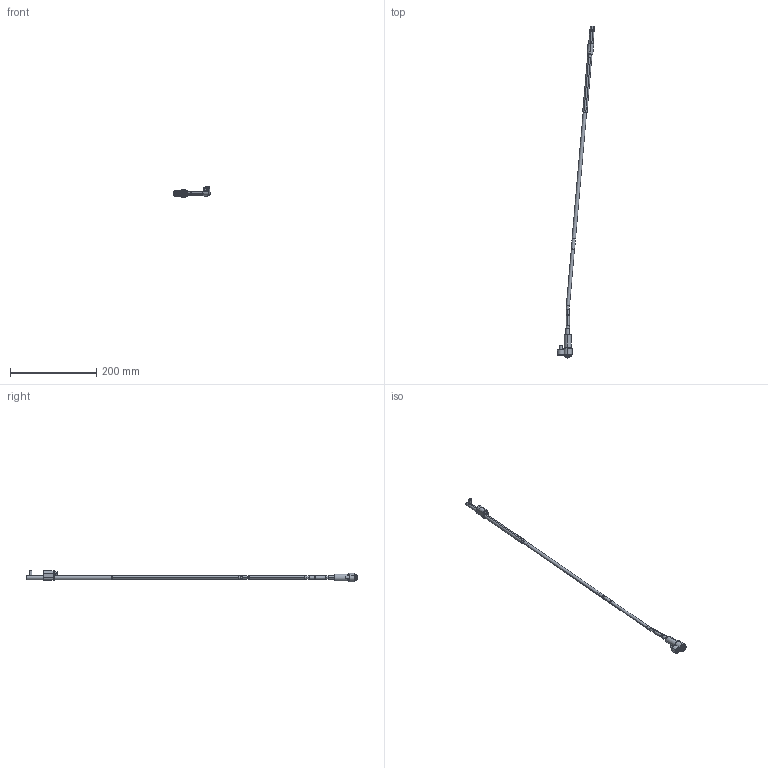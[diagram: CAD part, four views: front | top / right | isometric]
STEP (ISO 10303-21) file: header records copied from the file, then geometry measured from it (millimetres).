
FILE_DESCRIPTION (( 'STEP AP214' ), '1' );
FILE_NAME ('WL080125-EJE 5°.STEP', '2021-03-19T15:30:00', ( '' ), ( '' ), 'SwSTEP 2.0', 'SolidWorks 2019', '' );
FILE_SCHEMA (( 'AUTOMOTIVE_DESIGN' ));
Length unit declared in the file: millimetre
Products named in the file (17): WL080100-E; Web-WL08-F00.SLDPRT; Web-WL08-F01; 3IMAN4X2-150_con sello; WL080100-D; WL080125-EJE 5°; WL080100-B1_WL0800FF-1; Web-WP08-1; 1DIN912616_DIN 912 M6 x 16 --- 16C; 9DR2206-TOR; Web-WL08-A2; WL080100-B_WL0800FF; Web-WL08XX-A7_ON-WL080125-5; 1DIN912545_DIN 912 M5 x 50 --- 50C; Web-WL08-A3; WL080100-C; Web-WL08-A1
Assembly tree (16 placements, depth 3):
  WL080125-EJE 5°
    Web-WP08-1
    Web-WL08XX-A7_ON-WL080125-5
    Web-WL08-A3
    Web-WL08-A2
    Web-WL08-A1
    WL080100-D
    WL080100-C
    WL080100-B_WL0800FF
      WL080100-B1_WL0800FF-1
      3IMAN4X2-150_con sello
    WL080100-E
    9DR2206-TOR
    Web-WL08-F00.SLDPRT
      Web-WL08-F01
      1DIN912545_DIN 912 M5 x 50 --- 50C
      1DIN912616_DIN 912 M6 x 16 --- 16C
Bounding box: 85.89 x 769.92 x 26.9 mm (x, y, z)
Volume: 58701.6 mm3; surface area: 34416 mm2
Topology: 15 solids, 15 shells, 424 faces, 888 edges, 516 vertices
Faces by surface type: plane 132, cylinder 128, cone 116, torus 48
Entity records: 13492 total; most frequent: DIRECTION 2218, CARTESIAN_POINT 2045, ORIENTED_EDGE 1756, AXIS2_PLACEMENT_3D 921, EDGE_CURVE 878, VERTEX_POINT 516, CIRCLE 476, EDGE_LOOP 468
